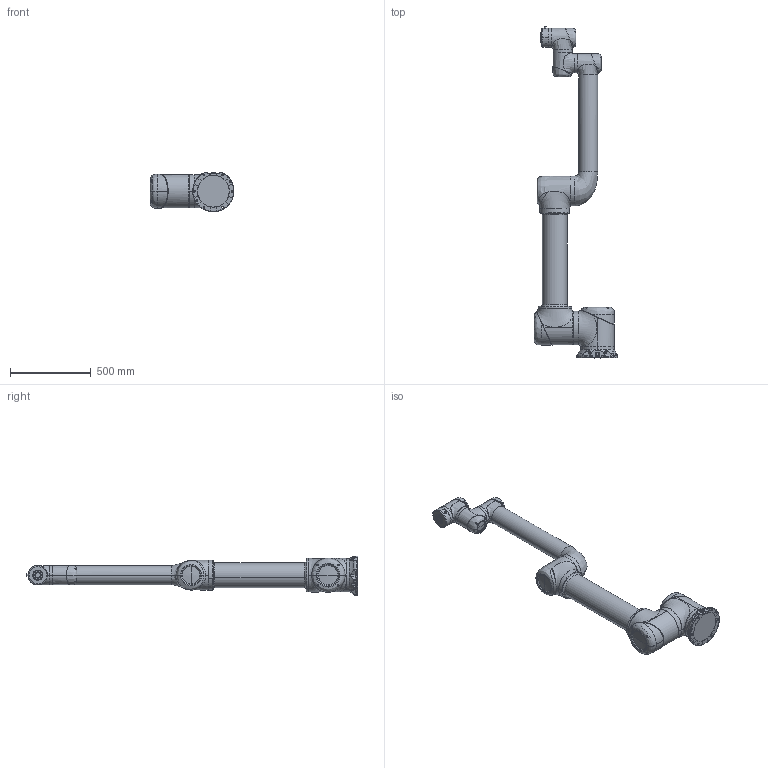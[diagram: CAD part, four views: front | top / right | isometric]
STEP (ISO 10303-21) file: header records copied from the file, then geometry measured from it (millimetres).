
FILE_DESCRIPTION (( 'STEP AP214' ), '1' );
FILE_NAME ('S30-1800_儂迮忒〞俋楷耀倰.STEP', '2023-09-19T02:08:08', ( '' ), ( '' ), 'SwSTEP 2.0', 'SolidWorks 2022', '' );
FILE_SCHEMA (( 'AUTOMOTIVE_DESIGN' ));
Length unit declared in the file: millimetre
Products named in the file (8): J5轴_S30; J4轴_S30; J6轴末端-S30; J2轴—S30; J3轴—S30; J1轴-S30; 底座_S30; S30-1800_机械手—外发模型
Assembly tree (7 placements, depth 2):
  S30-1800_机械手—外发模型
    底座_S30
    J1轴-S30
    J2轴—S30
    J3轴—S30
    J4轴_S30
    J5轴_S30
    J6轴末端-S30
Bounding box: 520.76 x 2058.97 x 245.97 mm (x, y, z)
Volume: 56796521.1 mm3; surface area: 1986144.6 mm2
Topology: 7 solids, 112 shells, 2483 faces, 5870 edges, 3671 vertices
Faces by surface type: cylinder 928, bspline 697, plane 551, torus 230, cone 57, sphere 20
Entity records: 176576 total; most frequent: CARTESIAN_POINT 123380, ORIENTED_EDGE 11680, DIRECTION 9951, EDGE_CURVE 5840, AXIS2_PLACEMENT_3D 4139, VERTEX_POINT 3671, EDGE_LOOP 2601, ADVANCED_FACE 2483
